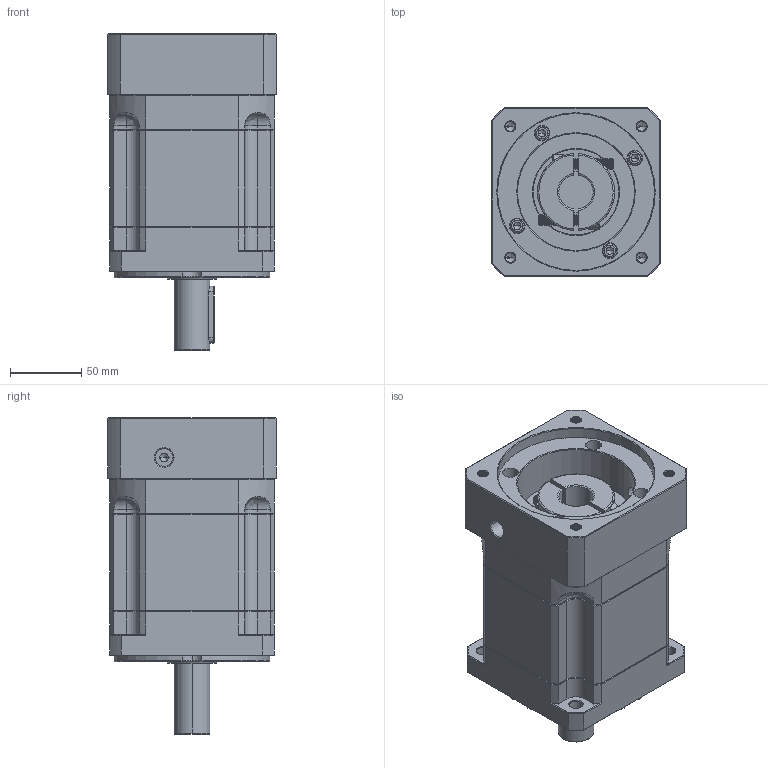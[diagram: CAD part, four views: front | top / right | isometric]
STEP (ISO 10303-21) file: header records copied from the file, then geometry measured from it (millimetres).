
FILE_DESCRIPTION (( 'STEP AP214' ), '1' );
FILE_NAME ('ZB115A-D25-L2-24-110-130-M8.step', '2023-03-02T08:57:37', ( '' ), ( 'Microsoft' ), 'SwSTEP 2.0', 'SolidWorks 2016', '' );
FILE_SCHEMA (( 'AUTOMOTIVE_DESIGN' ));
Length unit declared in the file: millimetre
Products named in the file (1): ZB115A-D25-L2-24-110-130-M8
Bounding box: 118 x 118 x 222 mm (x, y, z)
Volume: 1873273.8 mm3; surface area: 181357.6 mm2
Topology: 6 solids, 6 shells, 2117 faces, 5466 edges, 3444 vertices
Faces by surface type: plane 964, cylinder 441, cone 367, bspline 325, torus 20
Entity records: 113203 total; most frequent: CARTESIAN_POINT 41223, ORIENTED_EDGE 10864, DIRECTION 8918, EDGE_CURVE 5432, VERTEX_POINT 3444, LINE 3374, VECTOR 3374, AXIS2_PLACEMENT_3D 2772
